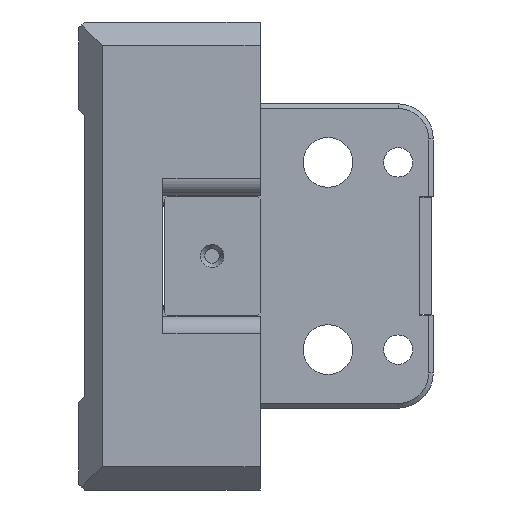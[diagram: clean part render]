
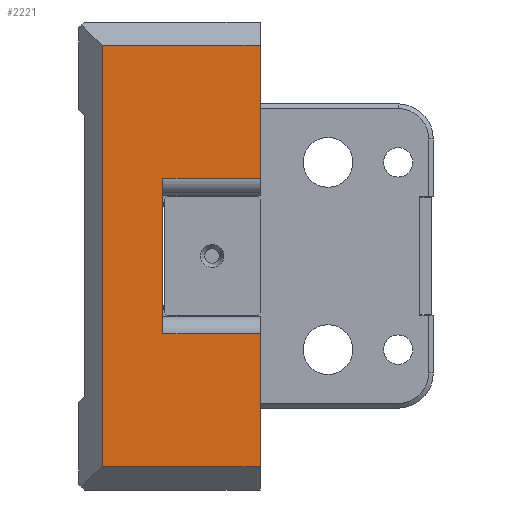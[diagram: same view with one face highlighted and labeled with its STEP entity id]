
A CAD part, left-side view. The second image highlights one B-rep face of the part: STEP entity #2221.
In plain terms, the highlighted planar face has unit normal (-1, 0, 0).
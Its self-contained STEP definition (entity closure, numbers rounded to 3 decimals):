
#89 = CARTESIAN_POINT ( 'NONE',  ( -250., -31., -40. ) ) ;
#113 = ORIENTED_EDGE ( 'NONE', *, *, #4640, .T. ) ;
#136 = ORIENTED_EDGE ( 'NONE', *, *, #4872, .F. ) ;
#185 = ORIENTED_EDGE ( 'NONE', *, *, #991, .T. ) ;
#238 = PLANE ( 'NONE',  #2793 ) ;
#268 = ORIENTED_EDGE ( 'NONE', *, *, #4173, .F. ) ;
#440 = LINE ( 'NONE', #4803, #2352 ) ;
#547 = FACE_OUTER_BOUND ( 'NONE', #3261, .T. ) ;
#681 = CARTESIAN_POINT ( 'NONE',  ( -250., -31., -13.3 ) ) ;
#728 = VECTOR ( 'NONE', #3719, 1000. ) ;
#734 = VECTOR ( 'NONE', #2539, 1000. ) ;
#760 = VERTEX_POINT ( 'NONE', #2289 ) ;
#841 = VERTEX_POINT ( 'NONE', #4530 ) ;
#858 = VECTOR ( 'NONE', #3582, 1000. ) ;
#865 = LINE ( 'NONE', #89, #734 ) ;
#886 = EDGE_CURVE ( 'NONE', #5239, #4861, #865, .T. ) ;
#904 = DIRECTION ( 'NONE',  ( 0., 1., 0. ) ) ;
#991 = EDGE_CURVE ( 'NONE', #5285, #4940, #2889, .T. ) ;
#1008 = DIRECTION ( 'NONE',  ( 0., 0., -1. ) ) ;
#1091 = VECTOR ( 'NONE', #1008, 1000. ) ;
#1153 = VECTOR ( 'NONE', #4521, 1000. ) ;
#1200 = LINE ( 'NONE', #1824, #1091 ) ;
#1328 = ORIENTED_EDGE ( 'NONE', *, *, #1955, .T. ) ;
#1403 = CARTESIAN_POINT ( 'NONE',  ( -250., -31., 36. ) ) ;
#1458 = DIRECTION ( 'NONE',  ( 0., 0., 1. ) ) ;
#1798 = CARTESIAN_POINT ( 'NONE',  ( -250., -31., 13.3 ) ) ;
#1824 = CARTESIAN_POINT ( 'NONE',  ( -250., -14.4, -13.3 ) ) ;
#1858 = CARTESIAN_POINT ( 'NONE',  ( -250., -31., -40. ) ) ;
#1955 = EDGE_CURVE ( 'NONE', #4940, #4624, #3030, .T. ) ;
#2221 = ADVANCED_FACE ( 'NONE', ( #547 ), #238, .T. ) ;
#2246 = LINE ( 'NONE', #2863, #1153 ) ;
#2289 = CARTESIAN_POINT ( 'NONE',  ( -250., -14.4, 13.3 ) ) ;
#2312 = ORIENTED_EDGE ( 'NONE', *, *, #886, .T. ) ;
#2352 = VECTOR ( 'NONE', #5210, 1000. ) ;
#2539 = DIRECTION ( 'NONE',  ( 0., 0., 1. ) ) ;
#2793 = AXIS2_PLACEMENT_3D ( 'NONE', #1858, #3916, #1458 ) ;
#2863 = CARTESIAN_POINT ( 'NONE',  ( -250., -14.4, 13.3 ) ) ;
#2889 = LINE ( 'NONE', #3347, #3010 ) ;
#3010 = VECTOR ( 'NONE', #904, 1000. ) ;
#3030 = LINE ( 'NONE', #3695, #728 ) ;
#3036 = EDGE_CURVE ( 'NONE', #3943, #5285, #5204, .T. ) ;
#3130 = ORIENTED_EDGE ( 'NONE', *, *, #4389, .T. ) ;
#3140 = CARTESIAN_POINT ( 'NONE',  ( -250., -14.4, -13.3 ) ) ;
#3167 = CARTESIAN_POINT ( 'NONE',  ( -250., -31., -40. ) ) ;
#3238 = LINE ( 'NONE', #3140, #5293 ) ;
#3261 = EDGE_LOOP ( 'NONE', ( #1328, #3130, #2312, #136, #268, #113, #4112, #185 ) ) ;
#3347 = CARTESIAN_POINT ( 'NONE',  ( -250., -31., 36. ) ) ;
#3395 = CARTESIAN_POINT ( 'NONE',  ( -250., -31., -36. ) ) ;
#3558 = DIRECTION ( 'NONE',  ( 0., -1., 0. ) ) ;
#3582 = DIRECTION ( 'NONE',  ( 0., 0., 1. ) ) ;
#3695 = CARTESIAN_POINT ( 'NONE',  ( -250., -4., -40. ) ) ;
#3719 = DIRECTION ( 'NONE',  ( 0., 0., -1. ) ) ;
#3916 = DIRECTION ( 'NONE',  ( -1., 0., 0. ) ) ;
#3943 = VERTEX_POINT ( 'NONE', #1798 ) ;
#4112 = ORIENTED_EDGE ( 'NONE', *, *, #3036, .T. ) ;
#4173 = EDGE_CURVE ( 'NONE', #760, #841, #1200, .T. ) ;
#4389 = EDGE_CURVE ( 'NONE', #4624, #5239, #440, .T. ) ;
#4429 = CARTESIAN_POINT ( 'NONE',  ( -250., -4., 36. ) ) ;
#4492 = CARTESIAN_POINT ( 'NONE',  ( -250., -4., -36. ) ) ;
#4521 = DIRECTION ( 'NONE',  ( 0., -1., 0. ) ) ;
#4530 = CARTESIAN_POINT ( 'NONE',  ( -250., -14.4, -13.3 ) ) ;
#4624 = VERTEX_POINT ( 'NONE', #4492 ) ;
#4640 = EDGE_CURVE ( 'NONE', #760, #3943, #2246, .T. ) ;
#4803 = CARTESIAN_POINT ( 'NONE',  ( -250., -31., -36. ) ) ;
#4861 = VERTEX_POINT ( 'NONE', #681 ) ;
#4872 = EDGE_CURVE ( 'NONE', #841, #4861, #3238, .T. ) ;
#4940 = VERTEX_POINT ( 'NONE', #4429 ) ;
#5204 = LINE ( 'NONE', #3167, #858 ) ;
#5210 = DIRECTION ( 'NONE',  ( 0., -1., 0. ) ) ;
#5239 = VERTEX_POINT ( 'NONE', #3395 ) ;
#5285 = VERTEX_POINT ( 'NONE', #1403 ) ;
#5293 = VECTOR ( 'NONE', #3558, 1000. ) ;
